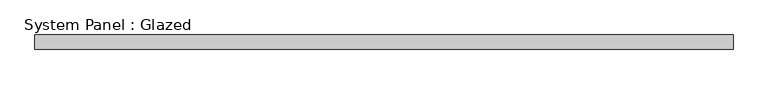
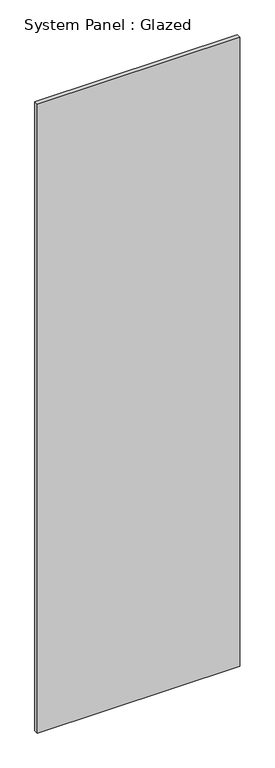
"""IFC4 building model written with IfcOpenShell, lengths in millimetres: plate geometry, System Panel : Glazed."""

from ifc_helpers import new_model, si_unit, origin, origin_with_axes, place, context, project, spatial, polyline, outline, extrude, source, transform, mapped, element, save


def system_panel_glazed_75032e0c(model_context):
    return source(origin(), model_context, "Body", "SweptSolid", [
        extrude(outline(polyline([(609.0, -49.5), (-609.0, -49.5), (-609.0, -24.5), (609.0, -24.5), (609.0, -49.5)])), origin_with_axes(), (0.0, 0.0, 1.0), 4000.0),
    ])


if __name__ == "__main__":
    model = new_model("IFC4")
    model_context = context("Model", 3, world=origin())
    ifc_project = project(units=[si_unit("LENGTHUNIT", "METRE", prefix="MILLI")], contexts=[model_context])
    site = spatial("IfcSite", under=ifc_project)
    building = spatial("IfcBuilding", under=site)
    placement = place(None, origin())
    system_panel_glazed_shape = system_panel_glazed_75032e0c(model_context)
    element("IfcPlate", 1, ObjectType="System Panel : Glazed", at=placement, inside=building, context=model_context, shape_type="MappedRepresentation", body=[
        mapped(system_panel_glazed_shape, transform((0.0, 0.0, 0.0), x_axis=(1.0, 0.0, 0.0), y_axis=(0.0, 1.0, 0.0), z_axis=(0.0, 0.0, 1.0))),
    ])
    save(model, "model.ifc")
